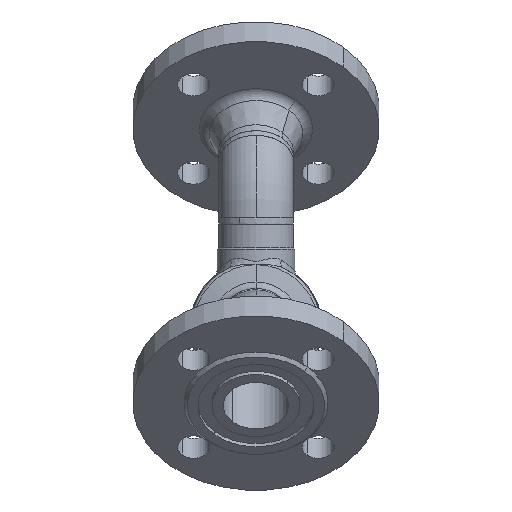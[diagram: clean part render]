
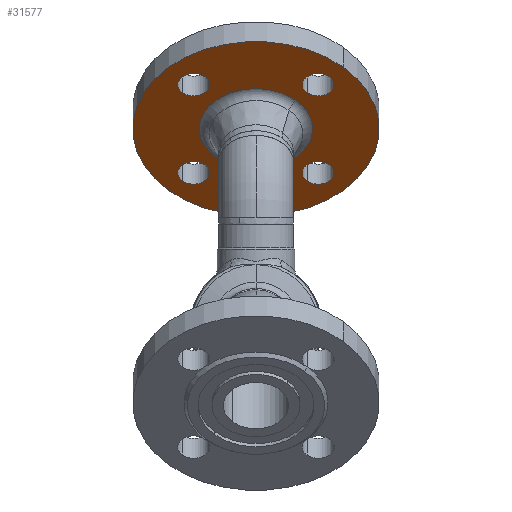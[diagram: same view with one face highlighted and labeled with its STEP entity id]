
A CAD part, front view. The second image highlights one B-rep face of the part: STEP entity #31577.
In plain terms, the highlighted planar face has unit normal (0, -0.707, -0.707) as drawn and (0, 1, 0) by its records, which use the part's own axes.
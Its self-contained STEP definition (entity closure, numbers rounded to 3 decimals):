
#49426 = ORIENTED_EDGE ( 'NONE', *, *, #40808, .F. ) ;
#1043 = EDGE_LOOP ( 'NONE', ( #51807, #49426 ) ) ;
#34113 = VERTEX_POINT ( 'NONE', #7071 ) ;
#34114 = EDGE_CURVE ( 'NONE', #21806, #46846, #7072, .T. ) ;
#50819 = EDGE_CURVE ( 'NONE', #21207, #34113, #22535, .T. ) ;
#1686 = ORIENTED_EDGE ( 'NONE', *, *, #16038, .F. ) ;
#1937 = VERTEX_POINT ( 'NONE', #39832 ) ;
#34769 = CIRCLE ( 'NONE', #34770, 9. ) ;
#34770 = AXIS2_PLACEMENT_3D ( 'NONE', #34771, #34772, #34773 ) ;
#34771 = CARTESIAN_POINT ( 'NONE',  ( 0., 18., 50. ) ) ;
#34772 = DIRECTION ( 'NONE',  ( 0., 1., 0. ) ) ;
#34773 = DIRECTION ( 'NONE',  ( 0., 0., -1. ) ) ;
#35274 = CIRCLE ( 'NONE', #35307, 32.147 ) ;
#2529 = EDGE_CURVE ( 'NONE', #48830, #1937, #40098, .T. ) ;
#35307 = AXIS2_PLACEMENT_3D ( 'NONE', #35308, #35309, #35310 ) ;
#35308 = CARTESIAN_POINT ( 'NONE',  ( 0., 18., 0. ) ) ;
#35309 = DIRECTION ( 'NONE',  ( 0., 1., 0. ) ) ;
#35310 = DIRECTION ( 'NONE',  ( -1., 0., 0. ) ) ;
#35370 = CARTESIAN_POINT ( 'NONE',  ( -9., 18., 50. ) ) ;
#51807 = ORIENTED_EDGE ( 'NONE', *, *, #50819, .F. ) ;
#3079 = EDGE_CURVE ( 'NONE', #15440, #10920, #40745, .T. ) ;
#20996 = CARTESIAN_POINT ( 'NONE',  ( 59., 18., 0. ) ) ;
#21207 = VERTEX_POINT ( 'NONE', #6824 ) ;
#4962 = CIRCLE ( 'NONE', #4963, 70. ) ;
#4963 = AXIS2_PLACEMENT_3D ( 'NONE', #4964, #4965, #4966 ) ;
#4964 = CARTESIAN_POINT ( 'NONE',  ( 0., 18., 0. ) ) ;
#4965 = DIRECTION ( 'NONE',  ( 0., 1., 0. ) ) ;
#4966 = DIRECTION ( 'NONE',  ( -1., 0., 0. ) ) ;
#21352 = CARTESIAN_POINT ( 'NONE',  ( 9., 18., -50. ) ) ;
#5119 = CARTESIAN_POINT ( 'NONE',  ( 70., 18., 0. ) ) ;
#21806 = VERTEX_POINT ( 'NONE', #29075 ) ;
#5457 = EDGE_CURVE ( 'NONE', #5507, #9782, #4962, .T. ) ;
#5507 = VERTEX_POINT ( 'NONE', #5119 ) ;
#6009 = CARTESIAN_POINT ( 'NONE',  ( 41., 18., 0. ) ) ;
#22535 = CIRCLE ( 'NONE', #22536, 9. ) ;
#22536 = AXIS2_PLACEMENT_3D ( 'NONE', #22537, #22538, #22539 ) ;
#22537 = CARTESIAN_POINT ( 'NONE',  ( -50., 18., 0. ) ) ;
#22538 = DIRECTION ( 'NONE',  ( 0., 1., 0. ) ) ;
#22539 = DIRECTION ( 'NONE',  ( 1., 0., 0. ) ) ;
#6311 = FACE_BOUND ( 'NONE', #30934, .T. ) ;
#6312 = FACE_BOUND ( 'NONE', #1043, .T. ) ;
#6313 = FACE_BOUND ( 'NONE', #48781, .T. ) ;
#6314 = FACE_BOUND ( 'NONE', #44370, .T. ) ;
#6315 = FACE_BOUND ( 'NONE', #12665, .T. ) ;
#6316 = FACE_OUTER_BOUND ( 'NONE', #9238, .T. ) ;
#6317 = PLANE ( 'NONE',  #6352 ) ;
#6352 = AXIS2_PLACEMENT_3D ( 'NONE', #6353, #6354, #6355 ) ;
#6353 = CARTESIAN_POINT ( 'NONE',  ( 70., 18., 0. ) ) ;
#6354 = DIRECTION ( 'NONE',  ( 0., -1., 0. ) ) ;
#6355 = DIRECTION ( 'NONE',  ( 1., 0., 0. ) ) ;
#6449 = ORIENTED_EDGE ( 'NONE', *, *, #5457, .T. ) ;
#6551 = CIRCLE ( 'NONE', #6552, 70. ) ;
#6552 = AXIS2_PLACEMENT_3D ( 'NONE', #6553, #6554, #6555 ) ;
#6553 = CARTESIAN_POINT ( 'NONE',  ( 0., 18., 0. ) ) ;
#6554 = DIRECTION ( 'NONE',  ( 0., 1., 0. ) ) ;
#6555 = DIRECTION ( 'NONE',  ( -1., 0., 0. ) ) ;
#6824 = CARTESIAN_POINT ( 'NONE',  ( -59., 18., 0. ) ) ;
#23292 = VERTEX_POINT ( 'NONE', #20996 ) ;
#7071 = CARTESIAN_POINT ( 'NONE',  ( -41., 18., 0. ) ) ;
#7072 = CIRCLE ( 'NONE', #7073, 9. ) ;
#39832 = CARTESIAN_POINT ( 'NONE',  ( -32.147, 18., 0. ) ) ;
#7073 = AXIS2_PLACEMENT_3D ( 'NONE', #7074, #7075, #7076 ) ;
#7074 = CARTESIAN_POINT ( 'NONE',  ( 0., 18., 50. ) ) ;
#7075 = DIRECTION ( 'NONE',  ( 0., 1., 0. ) ) ;
#7076 = DIRECTION ( 'NONE',  ( 0., 0., -1. ) ) ;
#40098 = CIRCLE ( 'NONE', #40148, 32.147 ) ;
#40148 = AXIS2_PLACEMENT_3D ( 'NONE', #40149, #40150, #40151 ) ;
#40149 = CARTESIAN_POINT ( 'NONE',  ( 0., 18., 0. ) ) ;
#40150 = DIRECTION ( 'NONE',  ( 0., 1., 0. ) ) ;
#40151 = DIRECTION ( 'NONE',  ( -1., 0., 0. ) ) ;
#7845 = ORIENTED_EDGE ( 'NONE', *, *, #31629, .T. ) ;
#40745 = CIRCLE ( 'NONE', #40746, 9. ) ;
#40746 = AXIS2_PLACEMENT_3D ( 'NONE', #40747, #40748, #40749 ) ;
#40747 = CARTESIAN_POINT ( 'NONE',  ( 0., 18., -50. ) ) ;
#40748 = DIRECTION ( 'NONE',  ( 0., 1., 0. ) ) ;
#40749 = DIRECTION ( 'NONE',  ( 0., 0., 1. ) ) ;
#40808 = EDGE_CURVE ( 'NONE', #34113, #21207, #26548, .T. ) ;
#9238 = EDGE_LOOP ( 'NONE', ( #7845, #6449 ) ) ;
#9782 = VERTEX_POINT ( 'NONE', #44950 ) ;
#9884 = ORIENTED_EDGE ( 'NONE', *, *, #2529, .F. ) ;
#42842 = ORIENTED_EDGE ( 'NONE', *, *, #15144, .F. ) ;
#26508 = CIRCLE ( 'NONE', #26509, 9. ) ;
#26509 = AXIS2_PLACEMENT_3D ( 'NONE', #26510, #26511, #26512 ) ;
#26510 = CARTESIAN_POINT ( 'NONE',  ( 50., 18., 0. ) ) ;
#26511 = DIRECTION ( 'NONE',  ( 0., 1., 0. ) ) ;
#26512 = DIRECTION ( 'NONE',  ( -1., 0., 0. ) ) ;
#26548 = CIRCLE ( 'NONE', #26549, 9. ) ;
#26549 = AXIS2_PLACEMENT_3D ( 'NONE', #26550, #26551, #26552 ) ;
#26550 = CARTESIAN_POINT ( 'NONE',  ( -50., 18., 0. ) ) ;
#26551 = DIRECTION ( 'NONE',  ( 0., 1., 0. ) ) ;
#26552 = DIRECTION ( 'NONE',  ( 1., 0., 0. ) ) ;
#26702 = CIRCLE ( 'NONE', #26703, 9. ) ;
#26703 = AXIS2_PLACEMENT_3D ( 'NONE', #26704, #26705, #26706 ) ;
#26704 = CARTESIAN_POINT ( 'NONE',  ( 50., 18., 0. ) ) ;
#26705 = DIRECTION ( 'NONE',  ( 0., 1., 0. ) ) ;
#26706 = DIRECTION ( 'NONE',  ( -1., 0., 0. ) ) ;
#26960 = CARTESIAN_POINT ( 'NONE',  ( -9., 18., -50. ) ) ;
#10920 = VERTEX_POINT ( 'NONE', #21352 ) ;
#27441 = CIRCLE ( 'NONE', #27442, 9. ) ;
#27442 = AXIS2_PLACEMENT_3D ( 'NONE', #27443, #27444, #27445 ) ;
#27443 = CARTESIAN_POINT ( 'NONE',  ( 0., 18., -50. ) ) ;
#27444 = DIRECTION ( 'NONE',  ( 0., 1., 0. ) ) ;
#27445 = DIRECTION ( 'NONE',  ( 0., 0., 1. ) ) ;
#44024 = CARTESIAN_POINT ( 'NONE',  ( 32.147, 18., 0. ) ) ;
#11269 = ORIENTED_EDGE ( 'NONE', *, *, #32625, .F. ) ;
#44370 = EDGE_LOOP ( 'NONE', ( #42842, #13307 ) ) ;
#44950 = CARTESIAN_POINT ( 'NONE',  ( -70., 18., 0. ) ) ;
#45014 = ORIENTED_EDGE ( 'NONE', *, *, #34114, .F. ) ;
#12665 = EDGE_LOOP ( 'NONE', ( #11269, #9884 ) ) ;
#29075 = CARTESIAN_POINT ( 'NONE',  ( 9., 18., 50. ) ) ;
#29548 = ORIENTED_EDGE ( 'NONE', *, *, #3079, .F. ) ;
#13307 = ORIENTED_EDGE ( 'NONE', *, *, #14651, .F. ) ;
#46403 = EDGE_CURVE ( 'NONE', #46846, #21806, #34769, .T. ) ;
#46846 = VERTEX_POINT ( 'NONE', #35370 ) ;
#30934 = EDGE_LOOP ( 'NONE', ( #29548, #1686 ) ) ;
#47396 = ORIENTED_EDGE ( 'NONE', *, *, #46403, .F. ) ;
#14651 = EDGE_CURVE ( 'NONE', #23292, #31280, #26508, .T. ) ;
#31280 = VERTEX_POINT ( 'NONE', #6009 ) ;
#15144 = EDGE_CURVE ( 'NONE', #31280, #23292, #26702, .T. ) ;
#31577 = ADVANCED_FACE ( 'NONE', ( #6311, #6312, #6313, #6314, #6315, #6316 ), #6317, .F. ) ;
#31629 = EDGE_CURVE ( 'NONE', #9782, #5507, #6551, .T. ) ;
#15440 = VERTEX_POINT ( 'NONE', #26960 ) ;
#48781 = EDGE_LOOP ( 'NONE', ( #47396, #45014 ) ) ;
#16038 = EDGE_CURVE ( 'NONE', #10920, #15440, #27441, .T. ) ;
#48830 = VERTEX_POINT ( 'NONE', #44024 ) ;
#32625 = EDGE_CURVE ( 'NONE', #1937, #48830, #35274, .T. ) ;
